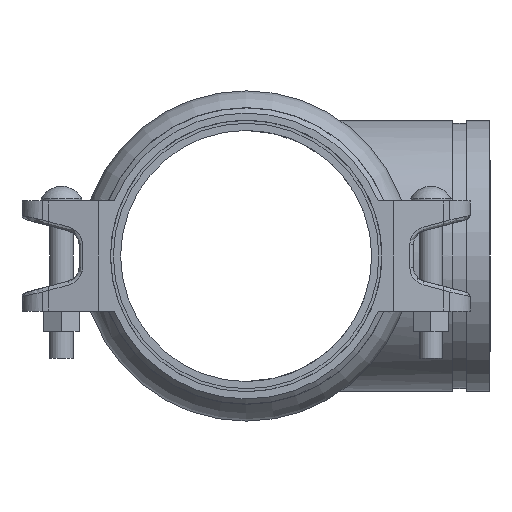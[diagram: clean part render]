
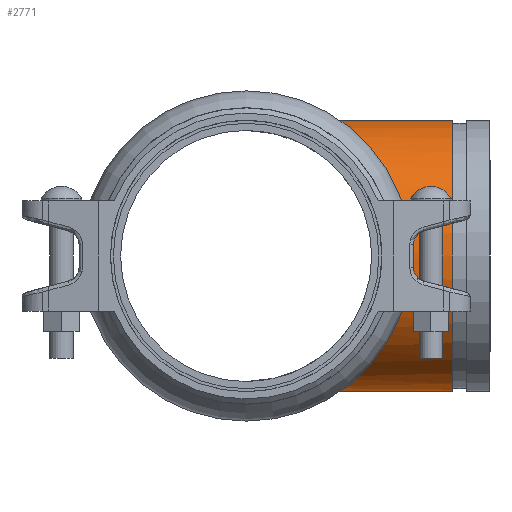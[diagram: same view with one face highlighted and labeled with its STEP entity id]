
A CAD part, left-side view. The second image highlights one B-rep face of the part: STEP entity #2771.
In plain terms, the highlighted cylindrical face has radius 109.537 mm (diameter 219.075 mm), a full revolution.
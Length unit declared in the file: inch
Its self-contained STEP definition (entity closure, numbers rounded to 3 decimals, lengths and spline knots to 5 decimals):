
#91=ELLIPSE('',#3036,6.0988,4.3125);
#92=ELLIPSE('',#3037,6.0988,4.3125);
#93=ELLIPSE('',#3038,6.0988,4.3125);
#235=FACE_OUTER_BOUND('',#391,.T.);
#391=EDGE_LOOP('',(#1768,#1769,#1770,#1771,#1772,#1773));
#572=LINE('',#4256,#749);
#749=VECTOR('',#3405,4.3125);
#927=CIRCLE('',#3025,4.3125);
#1077=VERTEX_POINT('',#4230);
#1084=VERTEX_POINT('',#4250);
#1085=VERTEX_POINT('',#4251);
#1086=VERTEX_POINT('',#4253);
#1350=EDGE_CURVE('',#1077,#1077,#927,.T.);
#1359=EDGE_CURVE('',#1084,#1085,#91,.T.);
#1360=EDGE_CURVE('',#1086,#1084,#92,.T.);
#1361=EDGE_CURVE('',#1085,#1086,#93,.T.);
#1362=EDGE_CURVE('',#1085,#1077,#572,.T.);
#1768=ORIENTED_EDGE('',*,*,#1359,.F.);
#1769=ORIENTED_EDGE('',*,*,#1360,.F.);
#1770=ORIENTED_EDGE('',*,*,#1361,.F.);
#1771=ORIENTED_EDGE('',*,*,#1362,.T.);
#1772=ORIENTED_EDGE('',*,*,#1350,.T.);
#1773=ORIENTED_EDGE('',*,*,#1362,.F.);
#2551=CYLINDRICAL_SURFACE('',#3035,4.3125);
#2771=ADVANCED_FACE('',(#235),#2551,.T.);
#3025=AXIS2_PLACEMENT_3D('',#4231,#3375,#3376);
#3035=AXIS2_PLACEMENT_3D('',#4249,#3397,#3398);
#3036=AXIS2_PLACEMENT_3D('',#4252,#3399,#3400);
#3037=AXIS2_PLACEMENT_3D('',#4254,#3401,#3402);
#3038=AXIS2_PLACEMENT_3D('',#4255,#3403,#3404);
#3375=DIRECTION('center_axis',(0.,1.,0.));
#3376=DIRECTION('ref_axis',(1.,0.,0.));
#3397=DIRECTION('center_axis',(0.,1.,0.));
#3398=DIRECTION('ref_axis',(1.,0.,0.));
#3399=DIRECTION('center_axis',(-0.707,0.707,0.));
#3400=DIRECTION('ref_axis',(0.707,0.707,0.));
#3401=DIRECTION('center_axis',(0.707,0.707,0.));
#3402=DIRECTION('ref_axis',(0.707,-0.707,0.));
#3403=DIRECTION('center_axis',(-0.707,0.707,0.));
#3404=DIRECTION('ref_axis',(0.707,0.707,0.));
#3405=DIRECTION('',(0.,-1.,0.));
#4230=CARTESIAN_POINT('',(-4.3125,-6.562,0.));
#4231=CARTESIAN_POINT('Origin',(0.,-6.562,0.));
#4249=CARTESIAN_POINT('Origin',(0.,-7.75,0.));
#4250=CARTESIAN_POINT('',(0.,0.,-4.3125));
#4251=CARTESIAN_POINT('',(-4.3125,-4.3125,0.));
#4252=CARTESIAN_POINT('Origin',(0.,0.,0.));
#4253=CARTESIAN_POINT('',(0.,0.,4.3125));
#4254=CARTESIAN_POINT('Origin',(0.,0.,0.));
#4255=CARTESIAN_POINT('Origin',(0.,0.,0.));
#4256=CARTESIAN_POINT('',(-4.3125,-7.75,0.));
